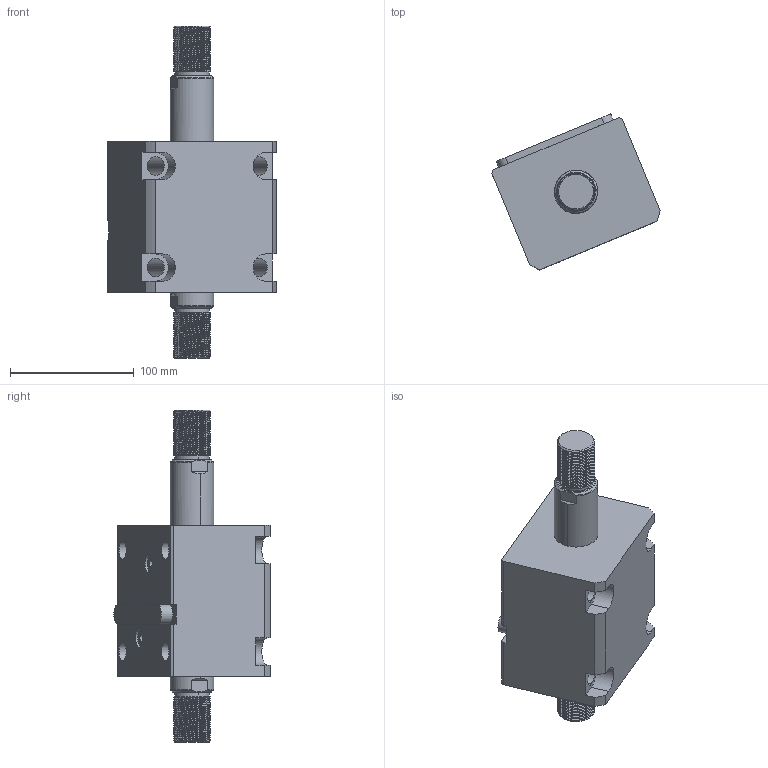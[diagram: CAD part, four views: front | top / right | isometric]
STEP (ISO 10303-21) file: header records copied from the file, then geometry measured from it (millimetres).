
FILE_DESCRIPTION (( 'STEP AP214' ), '1' );
FILE_NAME ('chtb-lwm63x40w_asm.STEP', '2018-05-22T01:29:46', ( 'Windows' ), ( 'Microsoft' ), 'SwSTEP 2.0', 'SolidWorks 2015', '' );
FILE_SCHEMA (( 'AUTOMOTIVE_DESIGN' ));
Length unit declared in the file: millimetre
Products named in the file (5): CHTB-SW63X40WHSG; CHTB-LWM63X40NBT; CHTB-LA63PJ; CHTB-63QG; chtb-lwm63x40w_asm
Assembly tree (4 placements, depth 2):
  chtb-lwm63x40w_asm
    CHTB-63QG
    CHTB-LA63PJ
    CHTB-LWM63X40NBT
    CHTB-SW63X40WHSG
Bounding box: 135.77 x 126.06 x 268 mm (x, y, z)
Volume: 1191588.9 mm3; surface area: 172115.2 mm2
Topology: 4 solids, 4 shells, 298 faces, 869 edges, 587 vertices
Faces by surface type: cylinder 203, plane 55, bspline 16, cone 12, torus 12
Entity records: 27660 total; most frequent: CARTESIAN_POINT 20506, ORIENTED_EDGE 1730, DIRECTION 1186, EDGE_CURVE 865, VERTEX_POINT 587, AXIS2_PLACEMENT_3D 440, EDGE_LOOP 326, VECTOR 306
